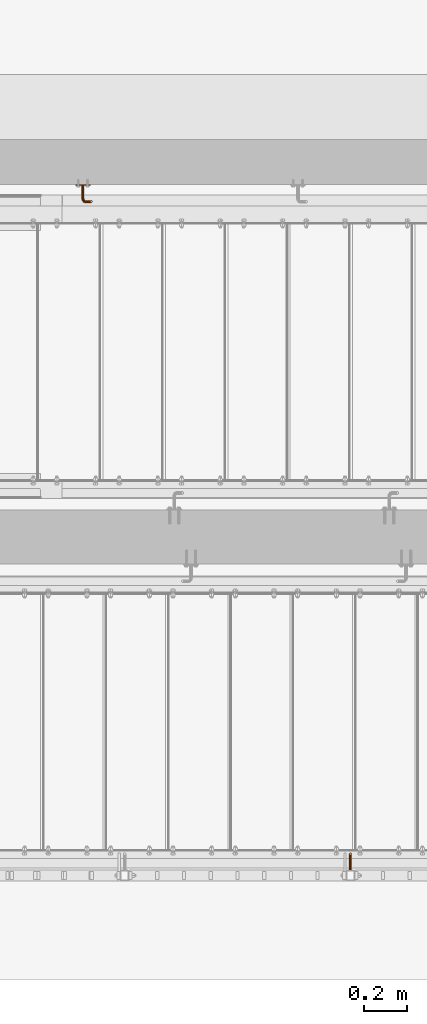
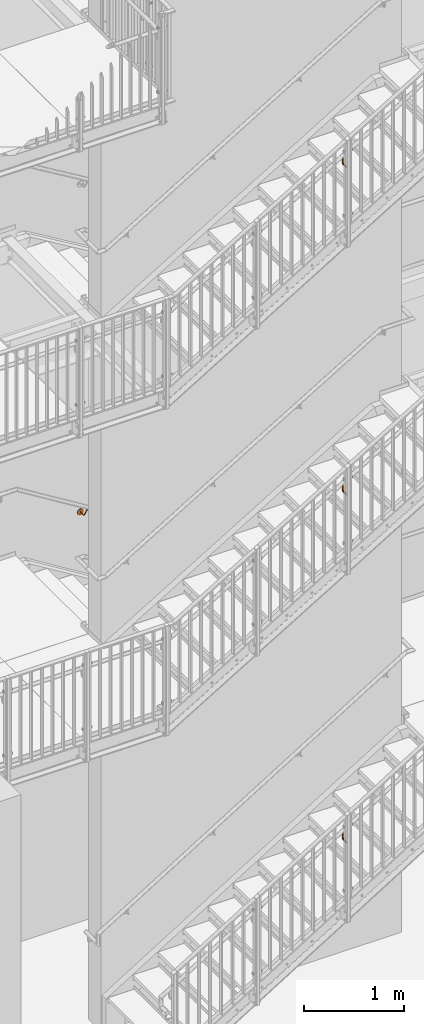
# One storey, part 382 of 410: 4 proxies.
"""IFC2X3 building model written with IfcOpenShell, lengths in millimetres."""

from ifc_helpers import new_model, entity, si_unit, converted_unit, origin_with_axes, place, context, project, spatial, faceted_brep, element, save


model = new_model("IFC2X3")

# Units and contexts
model_context = context("Model", 3, precision=1e-09, world=origin_with_axes())
ifc_project = project(units=[si_unit("LENGTHUNIT", "METRE", prefix="MILLI"), si_unit("AREAUNIT", "SQUARE_METRE"), si_unit("VOLUMEUNIT", "CUBIC_METRE"), converted_unit("PLANEANGLEUNIT", "DEGREE", entity("IfcPlaneAngleMeasure", 0.01745329), si_unit("PLANEANGLEUNIT", "RADIAN"), dimensions=[0, 0, 0, 0, 0, 0, 0])], contexts=[model_context])

# Site, building, storey
site_placement = place(None, origin_with_axes())
site = spatial("IfcSite", under=ifc_project, at=site_placement, Name="mKR Teilneubau & Sanierung BA1 - Ostfildern", CompositionType="ELEMENT")
building_placement = place(site_placement, origin_with_axes())
building = spatial("IfcBuilding", under=site, at=building_placement, Name="Struktur 1", CompositionType="ELEMENT")
storey_placement = place(building_placement, origin_with_axes())
storey = spatial("IfcBuildingStorey", under=building, at=storey_placement, Name="Default Storey", CompositionType="ELEMENT", Elevation=0.0)

# Proxies
proxy_1_placement = place(None, origin_with_axes())
element("IfcBuildingElementProxy", 1, at=proxy_1_placement, inside=storey, ObjectType="-", context=model_context, shape_type="Brep", body=[
    faceted_brep([(309.805315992, 15430.999999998, 5945.034187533), (312.001468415, 15430.999999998, 5942.83803511), (315.001468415, 15430.999999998, 5942.034187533), (318.001468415, 15430.999999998, 5942.83803511), (320.197620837, 15430.999999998, 5945.034187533), (321.001468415, 15430.999999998, 5948.034187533), (320.197620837, 15430.999999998, 5951.034187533), (318.001468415, 15430.999999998, 5953.230339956), (315.001468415, 15430.999999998, 5954.034187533), (312.001468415, 15430.999999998, 5953.230339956), (309.805315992, 15430.999999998, 5951.034187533), (309.001468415, 15430.999999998, 5948.034187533), (318.001468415, 15487.999999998, 5953.230339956), (320.197620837, 15487.999999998, 5951.034187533), (312.001468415, 15487.999999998, 5953.230339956), (309.805315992, 15487.999999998, 5951.034187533), (315.001468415, 15487.999999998, 5954.034187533), (320.197620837, 15493.740251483, 5952.175994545), (318.001468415, 15492.899820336, 5954.204974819), (309.001468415, 15487.999999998, 5948.034187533), (315.001468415, 15492.592201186, 5954.947633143), (321.001468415, 15487.999999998, 5948.034187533), (318.001468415, 15497.053687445, 5956.980500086), (315.001468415, 15496.485281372, 5957.548906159), (312.001468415, 15492.899820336, 5954.204974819), (309.805315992, 15493.740251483, 5952.175994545), (318.001468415, 15499.829212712, 5961.134367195), (315.001468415, 15499.086554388, 5961.441986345), (321.001468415, 15494.888301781, 5949.404355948), (320.197620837, 15498.606601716, 5955.427585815), (320.197620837, 15487.999999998, 5945.034187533), (318.001468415, 15487.999999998, 5942.83803511), (315.001468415, 15487.999999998, 5942.034187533), (312.001468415, 15487.999999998, 5942.83803511), (309.805315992, 15487.999999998, 5945.034187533), (309.001468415, 15494.888301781, 5949.404355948), (312.001468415, 15497.053687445, 5956.980500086), (312.001468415, 15499.829212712, 5961.134367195), (312.70536782, 15500.456722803, 6018.049387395), (312.001468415, 15500.803847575, 5966.034187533), (315.001468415, 15499.999999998, 5966.034187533), (315.001468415, 15499.999999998, 6019.429023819), (319.244109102, 15510.242640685, 6021.978259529), (317.297569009, 15511.543277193, 6020.808660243), (315.001468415, 15511.999999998, 6019.429023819), (312.70536782, 15511.543277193, 6018.049387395), (310.758827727, 15510.242640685, 6016.879788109), (309.45819122, 15508.296100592, 6016.098286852), (309.001468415, 15505.999999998, 6015.823860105), (309.45819122, 15503.703899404, 6016.098286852), (310.758827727, 15501.757359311, 6016.879788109), (317.297569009, 15500.456722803, 6020.808660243), (319.244109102, 15501.757359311, 6021.978259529), (320.54474561, 15503.703899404, 6022.759760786), (321.001468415, 15505.999999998, 6023.034187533), (320.54474561, 15508.296100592, 6022.759760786), (309.805315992, 15496.036352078, 5946.63271735), (309.805315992, 15498.606601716, 5955.427585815), (309.001468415, 15500.727922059, 5953.306265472), (318.001468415, 15500.803847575, 5966.034187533), (320.197620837, 15501.858192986, 5960.293936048), (320.197620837, 15496.036352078, 5946.63271735), (321.001468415, 15500.727922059, 5953.306265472), (318.001468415, 15496.876783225, 5944.603737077), (315.001468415, 15497.184402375, 5943.861078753), (312.001468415, 15496.876783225, 5944.603737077), (309.805315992, 15502.849242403, 5951.184945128), (309.805315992, 15502.999999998, 5966.034187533), (309.805315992, 15501.858192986, 5960.293936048), (312.001468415, 15504.402156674, 5949.632030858), (309.001468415, 15504.629831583, 5959.145885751), (309.805315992, 15507.401470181, 5957.997835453), (320.197620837, 15502.999999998, 5966.034187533), (321.001468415, 15504.629831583, 5959.145885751), (320.197620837, 15502.849242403, 5951.184945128), (318.001468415, 15504.402156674, 5949.632030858), (315.001468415, 15504.970562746, 5949.063624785), (312.001468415, 15509.430450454, 5957.157404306), (309.001468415, 15505.999999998, 5966.034187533), (315.001468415, 15510.173108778, 5956.849785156), (309.805315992, 15508.999999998, 5966.034187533), (312.001468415, 15511.196152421, 5966.034187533), (321.001468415, 15505.999999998, 5966.034187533), (320.197620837, 15507.401470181, 5957.997835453), (318.001468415, 15509.430450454, 5957.157404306), (315.001468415, 15511.999999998, 5966.034187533), (318.001468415, 15511.196152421, 5966.034187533), (320.197620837, 15508.999999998, 5966.034187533)], [[[0, 1, 2, 3, 4, 5, 6, 7, 8, 9, 10, 11]], [[12, 7, 6, 13]], [[9, 14, 15, 10]], [[8, 16, 14, 9]], [[7, 12, 16, 8]], [[12, 13, 17, 18]], [[10, 15, 19, 11]], [[18, 20, 16, 12]], [[13, 6, 5, 21]], [[22, 23, 20, 18]], [[15, 14, 24, 25]], [[14, 16, 20, 24]], [[23, 22, 26, 27]], [[13, 21, 28, 17]], [[18, 17, 29, 22]], [[4, 30, 21, 5]], [[3, 31, 30, 4]], [[2, 32, 31, 3]], [[1, 33, 32, 2]], [[0, 34, 33, 1]], [[11, 19, 34, 0]], [[19, 15, 25, 35]], [[23, 36, 24, 20]], [[27, 37, 36, 23]], [[38, 39, 40]], [[40, 39, 37, 27]], [[41, 38, 40]], [[42, 43, 44, 45, 46, 47, 48, 49, 50, 38, 41, 51, 52, 53, 54, 55]], [[35, 56, 34, 19]], [[35, 25, 57, 58]], [[25, 24, 36, 57]], [[38, 50, 39]], [[27, 26, 59, 40]], [[22, 29, 60, 26]], [[21, 30, 61, 28]], [[17, 28, 62, 29]], [[51, 41, 40]], [[30, 31, 63, 61]], [[31, 32, 64, 63]], [[32, 33, 65, 64]], [[33, 34, 56, 65]], [[56, 35, 58, 66]], [[39, 67, 68, 37]], [[37, 68, 57, 36]], [[50, 67, 39]], [[51, 40, 59]], [[66, 69, 65, 56]], [[66, 58, 70, 71]], [[58, 57, 68, 70]], [[50, 49, 67]], [[26, 60, 72, 59]], [[29, 62, 73, 60]], [[28, 61, 74, 62]], [[52, 51, 59]], [[61, 63, 75, 74]], [[63, 64, 76, 75]], [[64, 65, 69, 76]], [[69, 66, 71, 77]], [[67, 78, 70, 68]], [[49, 78, 67]], [[52, 59, 72]], [[77, 79, 76, 69]], [[77, 71, 80, 81]], [[71, 70, 78, 80]], [[49, 48, 78]], [[60, 73, 82, 72]], [[62, 74, 83, 73]], [[53, 52, 72]], [[74, 75, 84, 83]], [[75, 76, 79, 84]], [[79, 77, 81, 85]], [[45, 44, 85]], [[48, 47, 78]], [[53, 72, 82]], [[85, 86, 84, 79]], [[44, 43, 85]], [[45, 85, 81]], [[46, 81, 80]], [[47, 80, 78]], [[73, 83, 87, 82]], [[54, 53, 82]], [[83, 84, 86, 87]], [[43, 86, 85]], [[46, 45, 81]], [[47, 46, 80]], [[54, 82, 55]], [[43, 42, 86]], [[55, 82, 87]], [[42, 87, 86]], [[42, 55, 87]]]),
])
proxy_2_placement = place(None, origin_with_axes())
element("IfcBuildingElementProxy", 2, at=proxy_2_placement, inside=storey, ObjectType="-", context=model_context, shape_type="Brep", body=[
    faceted_brep([(309.805315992, 15430.999999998, 1937.560415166), (312.001468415, 15430.999999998, 1935.364262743), (315.001468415, 15430.999999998, 1934.560415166), (318.001468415, 15430.999999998, 1935.364262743), (320.197620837, 15430.999999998, 1937.560415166), (321.001468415, 15430.999999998, 1940.560415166), (320.197620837, 15430.999999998, 1943.560415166), (318.001468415, 15430.999999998, 1945.756567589), (315.001468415, 15430.999999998, 1946.560415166), (312.001468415, 15430.999999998, 1945.756567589), (309.805315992, 15430.999999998, 1943.560415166), (309.001468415, 15430.999999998, 1940.560415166), (318.001468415, 15487.999999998, 1945.756567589), (320.197620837, 15487.999999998, 1943.560415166), (312.001468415, 15487.999999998, 1945.756567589), (309.805315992, 15487.999999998, 1943.560415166), (315.001468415, 15487.999999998, 1946.560415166), (320.197620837, 15493.740251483, 1944.702222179), (318.001468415, 15492.899820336, 1946.731202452), (309.001468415, 15487.999999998, 1940.560415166), (315.001468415, 15492.592201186, 1947.473860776), (321.001468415, 15487.999999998, 1940.560415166), (318.001468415, 15497.053687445, 1949.506727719), (315.001468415, 15496.485281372, 1950.075133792), (312.001468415, 15492.899820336, 1946.731202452), (309.805315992, 15493.740251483, 1944.702222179), (318.001468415, 15499.829212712, 1953.660594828), (315.001468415, 15499.086554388, 1953.968213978), (321.001468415, 15494.888301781, 1941.930583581), (320.197620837, 15498.606601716, 1947.953813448), (320.197620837, 15487.999999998, 1937.560415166), (318.001468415, 15487.999999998, 1935.364262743), (315.001468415, 15487.999999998, 1934.560415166), (312.001468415, 15487.999999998, 1935.364262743), (309.805315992, 15487.999999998, 1937.560415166), (309.001468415, 15494.888301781, 1941.930583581), (312.001468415, 15497.053687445, 1949.506727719), (312.001468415, 15499.829212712, 1953.660594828), (312.70536782, 15500.456722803, 2010.575615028), (312.001468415, 15500.803847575, 1958.560415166), (315.001468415, 15499.999999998, 1958.560415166), (315.001468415, 15499.999999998, 2011.955251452), (319.244109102, 15510.242640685, 2014.504487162), (317.297569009, 15511.543277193, 2013.334887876), (315.001468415, 15511.999999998, 2011.955251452), (312.70536782, 15511.543277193, 2010.575615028), (310.758827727, 15510.242640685, 2009.406015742), (309.45819122, 15508.296100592, 2008.624514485), (309.001468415, 15505.999999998, 2008.350087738), (309.45819122, 15503.703899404, 2008.624514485), (310.758827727, 15501.757359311, 2009.406015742), (317.297569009, 15500.456722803, 2013.334887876), (319.244109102, 15501.757359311, 2014.504487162), (320.54474561, 15503.703899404, 2015.285988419), (321.001468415, 15505.999999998, 2015.560415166), (320.54474561, 15508.296100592, 2015.285988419), (309.805315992, 15496.036352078, 1939.158944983), (309.805315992, 15498.606601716, 1947.953813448), (309.001468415, 15500.727922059, 1945.832493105), (318.001468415, 15500.803847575, 1958.560415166), (320.197620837, 15501.858192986, 1952.820163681), (320.197620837, 15496.036352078, 1939.158944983), (321.001468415, 15500.727922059, 1945.832493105), (318.001468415, 15496.876783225, 1937.12996471), (315.001468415, 15497.184402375, 1936.387306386), (312.001468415, 15496.876783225, 1937.12996471), (309.805315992, 15502.849242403, 1943.711172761), (309.805315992, 15502.999999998, 1958.560415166), (309.805315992, 15501.858192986, 1952.820163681), (312.001468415, 15504.402156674, 1942.158258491), (309.001468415, 15504.629831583, 1951.672113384), (309.805315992, 15507.401470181, 1950.524063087), (320.197620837, 15502.999999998, 1958.560415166), (321.001468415, 15504.629831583, 1951.672113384), (320.197620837, 15502.849242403, 1943.711172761), (318.001468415, 15504.402156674, 1942.158258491), (315.001468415, 15504.970562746, 1941.589852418), (312.001468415, 15509.430450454, 1949.683631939), (309.001468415, 15505.999999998, 1958.560415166), (315.001468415, 15510.173108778, 1949.376012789), (309.805315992, 15508.999999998, 1958.560415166), (312.001468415, 15511.196152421, 1958.560415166), (321.001468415, 15505.999999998, 1958.560415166), (320.197620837, 15507.401470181, 1950.524063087), (318.001468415, 15509.430450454, 1949.683631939), (315.001468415, 15511.999999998, 1958.560415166), (318.001468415, 15511.196152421, 1958.560415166), (320.197620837, 15508.999999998, 1958.560415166)], [[[0, 1, 2, 3, 4, 5, 6, 7, 8, 9, 10, 11]], [[12, 7, 6, 13]], [[9, 14, 15, 10]], [[8, 16, 14, 9]], [[7, 12, 16, 8]], [[12, 13, 17, 18]], [[10, 15, 19, 11]], [[18, 20, 16, 12]], [[13, 6, 5, 21]], [[22, 23, 20, 18]], [[15, 14, 24, 25]], [[14, 16, 20, 24]], [[23, 22, 26, 27]], [[13, 21, 28, 17]], [[18, 17, 29, 22]], [[4, 30, 21, 5]], [[3, 31, 30, 4]], [[2, 32, 31, 3]], [[1, 33, 32, 2]], [[0, 34, 33, 1]], [[11, 19, 34, 0]], [[19, 15, 25, 35]], [[23, 36, 24, 20]], [[27, 37, 36, 23]], [[38, 39, 40]], [[40, 39, 37, 27]], [[41, 38, 40]], [[42, 43, 44, 45, 46, 47, 48, 49, 50, 38, 41, 51, 52, 53, 54, 55]], [[35, 56, 34, 19]], [[35, 25, 57, 58]], [[25, 24, 36, 57]], [[38, 50, 39]], [[27, 26, 59, 40]], [[22, 29, 60, 26]], [[21, 30, 61, 28]], [[17, 28, 62, 29]], [[51, 41, 40]], [[30, 31, 63, 61]], [[31, 32, 64, 63]], [[32, 33, 65, 64]], [[33, 34, 56, 65]], [[56, 35, 58, 66]], [[39, 67, 68, 37]], [[37, 68, 57, 36]], [[50, 67, 39]], [[51, 40, 59]], [[66, 69, 65, 56]], [[66, 58, 70, 71]], [[58, 57, 68, 70]], [[50, 49, 67]], [[26, 60, 72, 59]], [[29, 62, 73, 60]], [[28, 61, 74, 62]], [[52, 51, 59]], [[61, 63, 75, 74]], [[63, 64, 76, 75]], [[64, 65, 69, 76]], [[69, 66, 71, 77]], [[67, 78, 70, 68]], [[49, 78, 67]], [[52, 59, 72]], [[77, 79, 76, 69]], [[77, 71, 80, 81]], [[71, 70, 78, 80]], [[49, 48, 78]], [[60, 73, 82, 72]], [[62, 74, 83, 73]], [[53, 52, 72]], [[74, 75, 84, 83]], [[75, 76, 79, 84]], [[79, 77, 81, 85]], [[45, 44, 85]], [[48, 47, 78]], [[53, 72, 82]], [[85, 86, 84, 79]], [[44, 43, 85]], [[45, 85, 81]], [[46, 81, 80]], [[47, 80, 78]], [[73, 83, 87, 82]], [[54, 53, 82]], [[83, 84, 86, 87]], [[43, 86, 85]], [[46, 45, 81]], [[47, 46, 80]], [[54, 82, 55]], [[43, 42, 86]], [[55, 82, 87]], [[42, 87, 86]], [[42, 55, 87]]]),
])
proxy_3_placement = place(None, origin_with_axes())
element("IfcBuildingElementProxy", 3, at=proxy_3_placement, inside=storey, ObjectType="-", context=model_context, shape_type="Brep", body=[
    faceted_brep([(309.805315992, 15430.999999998, -2320.064771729), (312.001468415, 15430.999999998, -2322.260924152), (315.001468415, 15430.999999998, -2323.064771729), (318.001468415, 15430.999999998, -2322.260924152), (320.197620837, 15430.999999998, -2320.064771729), (321.001468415, 15430.999999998, -2317.064771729), (320.197620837, 15430.999999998, -2314.064771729), (318.001468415, 15430.999999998, -2311.868619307), (315.001468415, 15430.999999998, -2311.064771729), (312.001468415, 15430.999999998, -2311.868619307), (309.805315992, 15430.999999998, -2314.064771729), (309.001468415, 15430.999999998, -2317.064771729), (318.001468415, 15487.999999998, -2311.868619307), (320.197620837, 15487.999999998, -2314.064771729), (312.001468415, 15487.999999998, -2311.868619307), (309.805315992, 15487.999999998, -2314.064771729), (315.001468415, 15487.999999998, -2311.064771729), (320.197620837, 15493.740251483, -2312.922964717), (318.001468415, 15492.899820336, -2310.893984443), (309.001468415, 15487.999999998, -2317.064771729), (315.001468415, 15492.592201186, -2310.15132612), (321.001468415, 15487.999999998, -2317.064771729), (318.001468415, 15497.053687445, -2308.118459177), (315.001468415, 15496.485281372, -2307.550053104), (312.001468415, 15492.899820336, -2310.893984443), (309.805315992, 15493.740251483, -2312.922964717), (318.001468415, 15499.829212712, -2303.964592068), (315.001468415, 15499.086554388, -2303.656972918), (321.001468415, 15494.88830178, -2315.694603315), (320.197620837, 15498.606601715, -2309.671373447), (320.197620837, 15487.999999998, -2320.064771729), (318.001468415, 15487.999999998, -2322.260924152), (315.001468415, 15487.999999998, -2323.064771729), (312.001468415, 15487.999999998, -2322.260924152), (309.805315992, 15487.999999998, -2320.064771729), (309.001468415, 15494.88830178, -2315.694603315), (312.001468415, 15497.053687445, -2308.118459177), (312.001468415, 15499.829212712, -2303.964592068), (312.70536782, 15500.456722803, -2247.049571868), (312.001468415, 15500.803847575, -2299.064771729), (315.001468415, 15499.999999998, -2299.064771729), (315.001468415, 15499.999999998, -2245.669935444), (319.244109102, 15510.242640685, -2243.120699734), (317.297569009, 15511.543277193, -2244.290299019), (315.001468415, 15511.999999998, -2245.669935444), (312.70536782, 15511.543277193, -2247.049571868), (310.758827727, 15510.242640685, -2248.219171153), (309.45819122, 15508.296100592, -2249.00067241), (309.001468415, 15505.999999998, -2249.275099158), (309.45819122, 15503.703899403, -2249.00067241), (310.758827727, 15501.75735931, -2248.219171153), (317.297569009, 15500.456722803, -2244.290299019), (319.244109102, 15501.75735931, -2243.120699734), (320.54474561, 15503.703899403, -2242.339198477), (321.001468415, 15505.999999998, -2242.064771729), (320.54474561, 15508.296100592, -2242.339198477), (309.805315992, 15496.036352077, -2318.466241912), (309.805315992, 15498.606601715, -2309.671373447), (309.001468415, 15500.727922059, -2311.792693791), (318.001468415, 15500.803847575, -2299.064771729), (320.197620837, 15501.858192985, -2304.805023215), (320.197620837, 15496.036352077, -2318.466241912), (321.001468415, 15500.727922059, -2311.792693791), (318.001468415, 15496.876783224, -2320.495222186), (315.001468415, 15497.184402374, -2321.23788051), (312.001468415, 15496.876783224, -2320.495222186), (309.805315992, 15502.849242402, -2313.914014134), (309.805315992, 15502.999999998, -2299.064771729), (309.805315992, 15501.858192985, -2304.805023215), (312.001468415, 15504.402156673, -2315.466928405), (309.001468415, 15504.629831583, -2305.953073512), (309.805315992, 15507.40147018, -2307.101123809), (320.197620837, 15502.999999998, -2299.064771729), (321.001468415, 15504.629831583, -2305.953073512), (320.197620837, 15502.849242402, -2313.914014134), (318.001468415, 15504.402156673, -2315.466928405), (315.001468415, 15504.970562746, -2316.035334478), (312.001468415, 15509.430450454, -2307.941554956), (309.001468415, 15505.999999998, -2299.064771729), (315.001468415, 15510.173108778, -2308.249174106), (309.805315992, 15508.999999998, -2299.064771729), (312.001468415, 15511.19615242, -2299.064771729), (321.001468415, 15505.999999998, -2299.064771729), (320.197620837, 15507.40147018, -2307.101123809), (318.001468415, 15509.430450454, -2307.941554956), (315.001468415, 15511.999999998, -2299.064771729), (318.001468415, 15511.19615242, -2299.064771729), (320.197620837, 15508.999999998, -2299.064771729)], [[[0, 1, 2, 3, 4, 5, 6, 7, 8, 9, 10, 11]], [[12, 7, 6, 13]], [[9, 14, 15, 10]], [[8, 16, 14, 9]], [[7, 12, 16, 8]], [[12, 13, 17, 18]], [[10, 15, 19, 11]], [[18, 20, 16, 12]], [[13, 6, 5, 21]], [[22, 23, 20, 18]], [[15, 14, 24, 25]], [[14, 16, 20, 24]], [[23, 22, 26, 27]], [[13, 21, 28, 17]], [[18, 17, 29, 22]], [[4, 30, 21, 5]], [[3, 31, 30, 4]], [[2, 32, 31, 3]], [[1, 33, 32, 2]], [[0, 34, 33, 1]], [[11, 19, 34, 0]], [[19, 15, 25, 35]], [[23, 36, 24, 20]], [[27, 37, 36, 23]], [[38, 39, 40]], [[40, 39, 37, 27]], [[41, 38, 40]], [[42, 43, 44, 45, 46, 47, 48, 49, 50, 38, 41, 51, 52, 53, 54, 55]], [[35, 56, 34, 19]], [[35, 25, 57, 58]], [[25, 24, 36, 57]], [[38, 50, 39]], [[27, 26, 59, 40]], [[22, 29, 60, 26]], [[21, 30, 61, 28]], [[17, 28, 62, 29]], [[51, 41, 40]], [[30, 31, 63, 61]], [[31, 32, 64, 63]], [[32, 33, 65, 64]], [[33, 34, 56, 65]], [[56, 35, 58, 66]], [[39, 67, 68, 37]], [[37, 68, 57, 36]], [[50, 67, 39]], [[51, 40, 59]], [[66, 69, 65, 56]], [[66, 58, 70, 71]], [[58, 57, 68, 70]], [[50, 49, 67]], [[26, 60, 72, 59]], [[29, 62, 73, 60]], [[28, 61, 74, 62]], [[52, 51, 59]], [[61, 63, 75, 74]], [[63, 64, 76, 75]], [[64, 65, 69, 76]], [[69, 66, 71, 77]], [[67, 78, 70, 68]], [[49, 78, 67]], [[52, 59, 72]], [[77, 79, 76, 69]], [[77, 71, 80, 81]], [[71, 70, 78, 80]], [[49, 48, 78]], [[60, 73, 82, 72]], [[62, 74, 83, 73]], [[53, 52, 72]], [[74, 75, 84, 83]], [[75, 76, 79, 84]], [[79, 77, 81, 85]], [[45, 44, 85]], [[48, 47, 78]], [[53, 72, 82]], [[85, 86, 84, 79]], [[44, 43, 85]], [[45, 85, 81]], [[46, 81, 80]], [[47, 80, 78]], [[73, 83, 87, 82]], [[54, 53, 82]], [[83, 84, 86, 87]], [[43, 86, 85]], [[46, 45, 81]], [[47, 46, 80]], [[54, 82, 55]], [[43, 42, 86]], [[55, 82, 87]], [[42, 87, 86]], [[42, 55, 87]]]),
])
proxy_4_placement = place(None, origin_with_axes())
element("IfcBuildingElementProxy", 4, at=proxy_4_placement, inside=storey, ObjectType="-", context=model_context, shape_type="Brep", body=[
    faceted_brep([(-952.660233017, 18620.000061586, 250.719482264), (-952.660233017, 18614.000061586, 250.719482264), (-954.260145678, 18614.000061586, 249.209478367), (-954.260145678, 18620.000061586, 249.209478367), (-897.689564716, 18614.000061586, 248.753163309), (-904.241941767, 18614.000061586, 258.23019411), (-913.516479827, 18614.000061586, 265.066179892), (-924.508138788, 18614.000061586, 268.520335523), (-936.025801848, 18614.000061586, 268.218349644), (-946.8213515, 18614.000061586, 264.192947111), (-955.724922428, 18614.000061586, 256.880342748), (-961.77167457, 18614.000061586, 247.072970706), (-964.306348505, 18614.000061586, 235.833611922), (-963.054272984, 18614.000061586, 224.380225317), (-958.151129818, 18614.000061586, 213.953963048), (-950.128250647, 18614.000061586, 205.68467241), (-939.855038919, 18614.000061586, 200.468459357), (-928.444756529, 18614.000061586, 198.870581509), (-917.133884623, 18614.000061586, 201.064193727), (-907.148131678, 18614.000061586, 206.811584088), (-899.569608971, 18614.000061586, 215.489933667), (-895.219567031, 18614.000061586, 226.158808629), (-894.569400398, 18614.000061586, 237.662070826), (-950.519666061, 18614.000061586, 251.227227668), (-948.412007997, 18614.000061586, 250.596664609), (-946.9020041, 18614.000061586, 248.996751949), (-946.394258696, 18614.000061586, 246.856184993), (-947.024821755, 18614.000061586, 244.748526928), (-948.624734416, 18614.000061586, 243.238523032), (-950.765301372, 18614.000061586, 242.730777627), (-952.872959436, 18614.000061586, 243.361340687), (-954.382963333, 18614.000061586, 244.961253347), (-954.890708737, 18614.000061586, 247.101820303), (-910.099504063, 18614.000061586, 224.478591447), (-907.958937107, 18614.000061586, 224.986336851), (-905.851279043, 18614.000061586, 224.355773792), (-904.341275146, 18614.000061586, 222.755861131), (-903.833529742, 18614.000061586, 220.615294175), (-904.464092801, 18614.000061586, 218.507636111), (-906.064005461, 18614.000061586, 216.997632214), (-908.204572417, 18614.000061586, 216.48988681), (-910.312230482, 18614.000061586, 217.120449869), (-911.822234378, 18614.000061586, 218.72036253), (-912.329979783, 18614.000061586, 220.860929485), (-911.699416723, 18614.000061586, 222.96858755), (-950.519666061, 18620.000061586, 251.227227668), (-928.444756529, 18620.000061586, 198.870581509), (-939.855038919, 18620.000061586, 200.468459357), (-950.128250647, 18620.000061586, 205.68467241), (-958.151129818, 18620.000061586, 213.953963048), (-963.054272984, 18620.000061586, 224.380225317), (-964.306348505, 18620.000061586, 235.833611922), (-961.77167457, 18620.000061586, 247.072970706), (-955.724922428, 18620.000061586, 256.880342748), (-946.8213515, 18620.000061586, 264.192947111), (-936.025801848, 18620.000061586, 268.218349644), (-924.508138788, 18620.000061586, 268.520335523), (-913.516479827, 18620.000061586, 265.066179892), (-904.241941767, 18620.000061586, 258.23019411), (-897.689564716, 18620.000061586, 248.753163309), (-894.569400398, 18620.000061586, 237.662070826), (-895.219567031, 18620.000061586, 226.158808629), (-899.569608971, 18620.000061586, 215.489933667), (-907.148131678, 18620.000061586, 206.811584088), (-917.133884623, 18620.000061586, 201.064193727), (-954.890708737, 18620.000061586, 247.101820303), (-954.382963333, 18620.000061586, 244.961253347), (-952.872959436, 18620.000061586, 243.361340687), (-950.765301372, 18620.000061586, 242.730777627), (-948.624734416, 18620.000061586, 243.238523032), (-947.024821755, 18620.000061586, 244.748526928), (-946.394258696, 18620.000061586, 246.856184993), (-946.9020041, 18620.000061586, 248.996751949), (-948.412007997, 18620.000061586, 250.596664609), (-912.329979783, 18620.000061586, 220.860929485), (-911.822234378, 18620.000061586, 218.72036253), (-910.312230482, 18620.000061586, 217.120449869), (-908.204572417, 18620.000061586, 216.48988681), (-906.064005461, 18620.000061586, 216.997632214), (-904.464092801, 18620.000061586, 218.507636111), (-903.833529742, 18620.000061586, 220.615294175), (-904.341275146, 18620.000061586, 222.755861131), (-905.851279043, 18620.000061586, 224.355773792), (-907.958937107, 18620.000061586, 224.986336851), (-910.099504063, 18620.000061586, 224.478591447), (-911.699416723, 18620.000061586, 222.96858755)], [[[0, 1, 2, 3]], [[4, 5, 6, 7, 8, 9, 10, 11, 12, 13, 14, 15, 16, 17, 18, 19, 20, 21, 22], [2, 1, 23, 24, 25, 26, 27, 28, 29, 30, 31, 32], [33, 34, 35, 36, 37, 38, 39, 40, 41, 42, 43, 44]], [[1, 0, 45, 23]], [[46, 47, 48, 49, 50, 51, 52, 53, 54, 55, 56, 57, 58, 59, 60, 61, 62, 63, 64], [0, 3, 65, 66, 67, 68, 69, 70, 71, 72, 73, 45], [74, 75, 76, 77, 78, 79, 80, 81, 82, 83, 84, 85]], [[3, 2, 32, 65]], [[10, 53, 52, 11]], [[65, 32, 31, 66]], [[23, 45, 73, 24]], [[53, 10, 9, 54]], [[66, 31, 30, 67]], [[11, 52, 51, 12]], [[24, 73, 72, 25]], [[8, 55, 54, 9]], [[67, 30, 29, 68]], [[55, 8, 7, 56]], [[50, 13, 12, 51]], [[25, 72, 71, 26]], [[13, 50, 49, 14]], [[68, 29, 28, 69]], [[26, 71, 70, 27]], [[56, 7, 6, 57]], [[69, 28, 27, 70]], [[14, 49, 48, 15]], [[57, 6, 5, 58]], [[44, 85, 84, 33]], [[15, 48, 47, 16]], [[85, 44, 43, 74]], [[33, 84, 83, 34]], [[58, 5, 4, 59]], [[16, 47, 46, 17]], [[74, 43, 42, 75]], [[34, 83, 82, 35]], [[59, 4, 22, 60]], [[17, 46, 64, 18]], [[75, 42, 41, 76]], [[35, 82, 81, 36]], [[60, 22, 21, 61]], [[18, 64, 63, 19]], [[76, 41, 40, 77]], [[20, 62, 61, 21]], [[36, 81, 80, 37]], [[62, 20, 19, 63]], [[77, 40, 39, 78]], [[37, 80, 79, 38]], [[78, 39, 38, 79]]]),
    faceted_brep([(-924.254831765, 18558.000061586, 230.709650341), (-924.254831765, 18614.000061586, 230.709650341), (-923.364625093, 18614.000061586, 233.685167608), (-923.364625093, 18558.000061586, 233.685167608), (-915.492357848, 18537.000061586, 246.453386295), (-885.577742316, 18537.000061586, 294.972617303), (-887.447139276, 18534.803909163, 296.125197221), (-917.361754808, 18534.803909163, 247.605966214), (-914.808111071, 18540.000061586, 246.031512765), (-884.893495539, 18540.000061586, 294.550743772), (-922.020448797, 18536.569611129, 240.049918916), (-919.709978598, 18538.598591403, 239.612726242), (-934.642796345, 18614.000061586, 231.009969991), (-935.359613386, 18614.000061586, 234.03194687), (-934.469406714, 18614.000061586, 237.007464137), (-932.210706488, 18614.000061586, 239.139234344), (-929.188729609, 18614.000061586, 239.856051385), (-926.213212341, 18614.000061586, 238.965844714), (-924.081442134, 18614.000061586, 236.707144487), (-926.513531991, 18614.000061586, 228.577880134), (-929.53550887, 18614.000061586, 227.861063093), (-932.511026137, 18614.000061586, 228.751269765), (-926.513531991, 18558.000061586, 228.577880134), (-922.76538443, 18552.2598101, 234.657090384), (-923.535742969, 18551.111759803, 231.875957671), (-892.554426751, 18545.196214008, 299.274104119), (-894.423823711, 18543.000061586, 300.426684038), (-895.108070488, 18540.000061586, 300.848557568), (-894.423823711, 18537.000061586, 300.426684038), (-892.554426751, 18534.803909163, 299.274104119), (-890.000783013, 18534.000061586, 297.69965067), (-885.577742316, 18543.000061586, 294.972617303), (-887.447139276, 18545.196214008, 296.125197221), (-890.000783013, 18546.000061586, 297.69965067), (-918.423214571, 18541.37023, 240.168089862), (-923.285504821, 18543.150819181, 233.813494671), (-921.487951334, 18545.272139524, 235.197319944), (-924.081442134, 18558.000061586, 236.707144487), (-925.674595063, 18549.963709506, 229.938572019), (-919.915398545, 18534.000061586, 249.180419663), (-915.492357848, 18543.000061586, 246.453386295), (-924.735536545, 18535.826952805, 241.362522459), (-925.969898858, 18541.59790491, 233.644211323), (-921.0588914, 18547.393459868, 237.424892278), (-923.569936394, 18553.100241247, 237.536767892), (-929.53550887, 18558.000061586, 227.861063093), (-918.504944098, 18544.141868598, 241.567200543), (-926.213212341, 18558.000061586, 238.965844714), (-928.60883702, 18549.123278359, 229.364054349), (-922.469042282, 18534.803909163, 250.754873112), (-917.361754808, 18545.196214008, 247.605966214), (-927.127736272, 18536.569611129, 243.198825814), (-928.821852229, 18541.029498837, 234.734829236), (-922.113291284, 18548.946374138, 239.899335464), (-925.733819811, 18553.407860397, 239.743382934), (-932.511026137, 18558.000061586, 228.751269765), (-919.933267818, 18546.170848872, 243.435167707), (-924.338439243, 18537.000061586, 251.90745303), (-929.188729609, 18558.000061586, 239.856051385), (-931.552241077, 18548.815659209, 230.306346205), (-919.915398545, 18546.000061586, 249.180419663), (-928.556059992, 18538.598591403, 245.066792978), (-931.077186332, 18541.59790491, 236.793118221), (-924.368625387, 18549.514780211, 241.957624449), (-928.677223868, 18553.100241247, 240.68567479), (-934.642796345, 18558.000061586, 231.009969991), (-922.325467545, 18546.913507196, 245.271471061), (-925.02268602, 18540.000061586, 252.329326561), (-932.210706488, 18558.000061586, 239.139234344), (-933.716124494, 18549.123278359, 232.512961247), (-922.469042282, 18545.196214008, 250.754873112), (-924.338439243, 18543.000061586, 251.90745303), (-928.63778952, 18541.37023, 246.465903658), (-932.131586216, 18543.150819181, 239.267561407), (-927.220578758, 18548.946374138, 243.048242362), (-931.611465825, 18552.2598101, 240.11115712), (-934.469406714, 18558.000061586, 237.007464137), (-935.359613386, 18558.000061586, 234.03194687), (-925.040555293, 18546.170848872, 246.584074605), (-934.520676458, 18549.963709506, 235.392638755), (-927.351025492, 18544.141868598, 247.021267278), (-931.702526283, 18545.272139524, 241.495133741), (-933.750317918, 18551.111759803, 238.173771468), (-929.904972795, 18547.393459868, 242.878959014)], [[[0, 1, 2, 3]], [[4, 5, 6, 7]], [[5, 4, 8, 9]], [[4, 7, 10, 11]], [[12, 13, 14, 15, 16, 17, 18, 2, 1, 19, 20, 21]], [[1, 0, 22, 19]], [[0, 3, 23, 24]], [[25, 26, 27, 28, 29, 30, 6, 5, 9, 31, 32, 33]], [[11, 34, 8, 4]], [[35, 36, 34, 11]], [[3, 2, 18, 37]], [[24, 38, 22, 0]], [[36, 35, 38, 24]], [[7, 6, 30, 39]], [[9, 8, 40, 31]], [[7, 39, 41, 10]], [[11, 10, 42, 35]], [[24, 23, 43, 36]], [[3, 37, 44, 23]], [[19, 22, 45, 20]], [[36, 43, 46, 34]], [[34, 46, 40, 8]], [[37, 18, 17, 47]], [[38, 48, 45, 22]], [[35, 42, 48, 38]], [[39, 30, 29, 49]], [[31, 40, 50, 32]], [[39, 49, 51, 41]], [[10, 41, 52, 42]], [[23, 44, 53, 43]], [[37, 47, 54, 44]], [[20, 45, 55, 21]], [[43, 53, 56, 46]], [[46, 56, 50, 40]], [[49, 29, 28, 57]], [[47, 17, 16, 58]], [[48, 59, 55, 45]], [[42, 52, 59, 48]], [[32, 50, 60, 33]], [[49, 57, 61, 51]], [[41, 51, 62, 52]], [[44, 54, 63, 53]], [[47, 58, 64, 54]], [[21, 55, 65, 12]], [[56, 66, 60, 50]], [[53, 63, 66, 56]], [[57, 28, 27, 67]], [[58, 16, 15, 68]], [[59, 69, 65, 55]], [[52, 62, 69, 59]], [[33, 60, 70, 25]], [[26, 71, 67, 27]], [[25, 70, 71, 26]], [[57, 67, 72, 61]], [[51, 61, 73, 62]], [[54, 64, 74, 63]], [[58, 68, 75, 64]], [[14, 76, 68, 15]], [[13, 77, 76, 14]], [[12, 65, 77, 13]], [[66, 78, 70, 60]], [[63, 74, 78, 66]], [[69, 79, 77, 65]], [[62, 73, 79, 69]], [[67, 71, 80, 72]], [[71, 70, 78, 80]], [[61, 72, 81, 73]], [[68, 76, 82, 75]], [[64, 75, 83, 74]], [[76, 77, 79, 82]], [[74, 83, 80, 78]], [[73, 81, 82, 79]], [[72, 80, 83, 81]], [[75, 82, 81, 83]]]),
])

save(model, "model.ifc")
